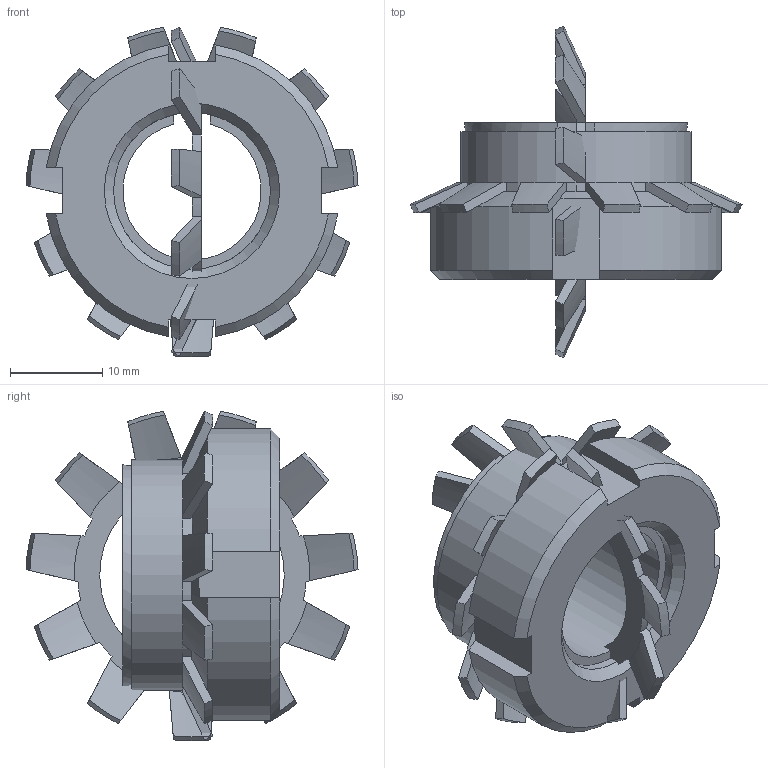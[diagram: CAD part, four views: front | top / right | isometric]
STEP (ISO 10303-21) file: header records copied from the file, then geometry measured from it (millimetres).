
FILE_DESCRIPTION( ( 'Unknown' ), '1' );
FILE_NAME( 'C:/Dokumente und Einstellungen/Sven/Desktop/homepage/cad - homepage/KBS51/KBS 51 - 15 x 25.stp', 'Unknown', ( 'Unknown' ), ( 'Unknown' ), 'XStep 1.0', 'Unknown', ' ' );
FILE_SCHEMA( ( 'automotive_design' ) );
Length unit declared in the file: millimetre
Products named in the file (3): Assem1; KBS 51 - 15 x 25; 08570040_locking_plate_din_5406_mb_4_2_14a
Bounding box: 35.98 x 35.98 x 35.72 mm (x, y, z)
Volume: 15516 mm3; surface area: 9527 mm2
Topology: 4 solids, 4 shells, 216 faces, 616 edges, 408 vertices
Faces by surface type: plane 96, cone 82, cylinder 38
Full cylindrical faces by diameter (mm): 17 x2, 25 x2
Entity records: 3880 total; most frequent: CARTESIAN_POINT 807, ORIENTED_EDGE 604, DIRECTION 572, EDGE_CURVE 302, AXIS2_PLACEMENT_3D 225, VERTEX_POINT 202, LINE 122, VECTOR 122
